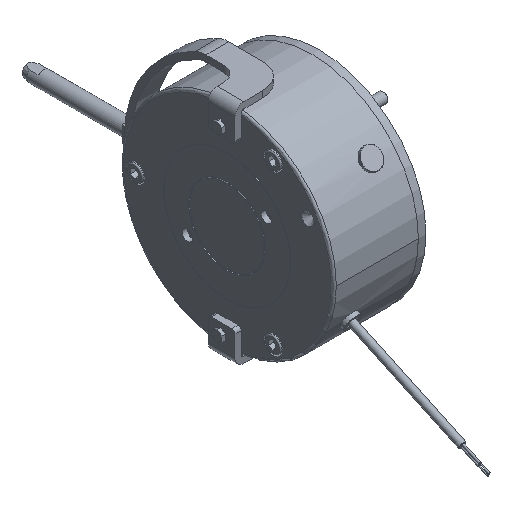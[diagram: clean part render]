
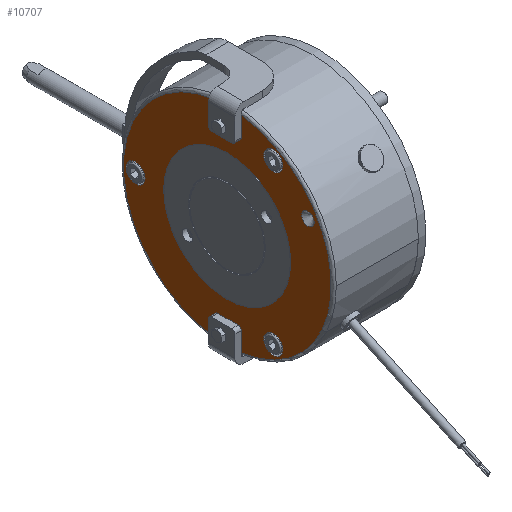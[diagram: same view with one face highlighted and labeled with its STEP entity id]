
A CAD part, isometric view. The second image highlights one B-rep face of the part: STEP entity #10707.
In plain terms, the highlighted planar face has unit normal (-1, 0, 0).
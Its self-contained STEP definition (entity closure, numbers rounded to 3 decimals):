
#767=FACE_BOUND('',#2466,.T.);
#768=FACE_BOUND('',#2467,.T.);
#769=FACE_BOUND('',#2468,.T.);
#770=FACE_BOUND('',#2469,.T.);
#771=FACE_BOUND('',#2470,.T.);
#1269=CIRCLE('',#11748,50.);
#1270=CIRCLE('',#11749,50.);
#1279=CIRCLE('',#11761,7.5);
#1280=CIRCLE('',#11762,7.5);
#1283=CIRCLE('',#11767,7.5);
#1284=CIRCLE('',#11768,7.5);
#1287=CIRCLE('',#11773,7.5);
#1288=CIRCLE('',#11774,7.5);
#1293=CIRCLE('',#11781,82.);
#1295=CIRCLE('',#11783,82.);
#1304=CIRCLE('',#11796,2.5);
#1305=CIRCLE('',#11797,2.5);
#1306=CIRCLE('',#11798,2.5);
#1307=CIRCLE('',#11799,2.5);
#1308=CIRCLE('',#11800,5.);
#1309=CIRCLE('',#11801,5.);
#1867=FACE_OUTER_BOUND('',#2465,.T.);
#2465=EDGE_LOOP('',(#8838,#8839,#8840,#8841,#8842,#8843,#8844,#8845,#8846,
#8847,#8848,#8849));
#2466=EDGE_LOOP('',(#8850,#8851));
#2467=EDGE_LOOP('',(#8852,#8853));
#2468=EDGE_LOOP('',(#8854,#8855));
#2469=EDGE_LOOP('',(#8856,#8857));
#2470=EDGE_LOOP('',(#8858,#8859));
#3116=LINE('',#19147,#3680);
#3117=LINE('',#19149,#3681);
#3118=LINE('',#19153,#3682);
#3119=LINE('',#19156,#3683);
#3120=LINE('',#19158,#3684);
#3121=LINE('',#19162,#3685);
#3680=VECTOR('',#14341,10.);
#3681=VECTOR('',#14342,10.);
#3682=VECTOR('',#14345,10.);
#3683=VECTOR('',#14348,10.);
#3684=VECTOR('',#14349,10.);
#3685=VECTOR('',#14352,10.);
#4653=VERTEX_POINT('',#19056);
#4654=VERTEX_POINT('',#19057);
#4663=VERTEX_POINT('',#19081);
#4664=VERTEX_POINT('',#19082);
#4667=VERTEX_POINT('',#19092);
#4668=VERTEX_POINT('',#19093);
#4671=VERTEX_POINT('',#19103);
#4672=VERTEX_POINT('',#19104);
#4676=VERTEX_POINT('',#19116);
#4677=VERTEX_POINT('',#19118);
#4678=VERTEX_POINT('',#19120);
#4679=VERTEX_POINT('',#19122);
#4687=VERTEX_POINT('',#19146);
#4688=VERTEX_POINT('',#19148);
#4689=VERTEX_POINT('',#19150);
#4690=VERTEX_POINT('',#19152);
#4691=VERTEX_POINT('',#19154);
#4692=VERTEX_POINT('',#19157);
#4693=VERTEX_POINT('',#19159);
#4694=VERTEX_POINT('',#19161);
#4695=VERTEX_POINT('',#19164);
#4696=VERTEX_POINT('',#19165);
#6086=EDGE_CURVE('',#4653,#4654,#1269,.T.);
#6087=EDGE_CURVE('',#4654,#4653,#1270,.T.);
#6098=EDGE_CURVE('',#4663,#4664,#1279,.T.);
#6099=EDGE_CURVE('',#4664,#4663,#1280,.T.);
#6103=EDGE_CURVE('',#4667,#4668,#1283,.T.);
#6104=EDGE_CURVE('',#4668,#4667,#1284,.T.);
#6108=EDGE_CURVE('',#4671,#4672,#1287,.T.);
#6109=EDGE_CURVE('',#4672,#4671,#1288,.T.);
#6115=EDGE_CURVE('',#4676,#4677,#1293,.T.);
#6117=EDGE_CURVE('',#4678,#4679,#1295,.T.);
#6129=EDGE_CURVE('',#4687,#4679,#3116,.T.);
#6130=EDGE_CURVE('',#4678,#4688,#3117,.T.);
#6131=EDGE_CURVE('',#4688,#4689,#1304,.T.);
#6132=EDGE_CURVE('',#4689,#4690,#3118,.T.);
#6133=EDGE_CURVE('',#4690,#4691,#1305,.T.);
#6134=EDGE_CURVE('',#4691,#4677,#3119,.T.);
#6135=EDGE_CURVE('',#4676,#4692,#3120,.T.);
#6136=EDGE_CURVE('',#4692,#4693,#1306,.T.);
#6137=EDGE_CURVE('',#4693,#4694,#3121,.T.);
#6138=EDGE_CURVE('',#4694,#4687,#1307,.T.);
#6139=EDGE_CURVE('',#4695,#4696,#1308,.T.);
#6140=EDGE_CURVE('',#4696,#4695,#1309,.T.);
#8838=ORIENTED_EDGE('',*,*,#6129,.T.);
#8839=ORIENTED_EDGE('',*,*,#6117,.F.);
#8840=ORIENTED_EDGE('',*,*,#6130,.T.);
#8841=ORIENTED_EDGE('',*,*,#6131,.T.);
#8842=ORIENTED_EDGE('',*,*,#6132,.T.);
#8843=ORIENTED_EDGE('',*,*,#6133,.T.);
#8844=ORIENTED_EDGE('',*,*,#6134,.T.);
#8845=ORIENTED_EDGE('',*,*,#6115,.F.);
#8846=ORIENTED_EDGE('',*,*,#6135,.T.);
#8847=ORIENTED_EDGE('',*,*,#6136,.T.);
#8848=ORIENTED_EDGE('',*,*,#6137,.T.);
#8849=ORIENTED_EDGE('',*,*,#6138,.T.);
#8850=ORIENTED_EDGE('',*,*,#6139,.T.);
#8851=ORIENTED_EDGE('',*,*,#6140,.T.);
#8852=ORIENTED_EDGE('',*,*,#6086,.T.);
#8853=ORIENTED_EDGE('',*,*,#6087,.T.);
#8854=ORIENTED_EDGE('',*,*,#6098,.T.);
#8855=ORIENTED_EDGE('',*,*,#6099,.T.);
#8856=ORIENTED_EDGE('',*,*,#6103,.T.);
#8857=ORIENTED_EDGE('',*,*,#6104,.T.);
#8858=ORIENTED_EDGE('',*,*,#6108,.T.);
#8859=ORIENTED_EDGE('',*,*,#6109,.T.);
#9646=PLANE('',#11795);
#10707=ADVANCED_FACE('',(#1867,#767,#768,#769,#770,#771),#9646,.T.);
#11748=AXIS2_PLACEMENT_3D('',#19058,#14237,#14238);
#11749=AXIS2_PLACEMENT_3D('',#19059,#14239,#14240);
#11761=AXIS2_PLACEMENT_3D('',#19083,#14265,#14266);
#11762=AXIS2_PLACEMENT_3D('',#19084,#14267,#14268);
#11767=AXIS2_PLACEMENT_3D('',#19094,#14278,#14279);
#11768=AXIS2_PLACEMENT_3D('',#19095,#14280,#14281);
#11773=AXIS2_PLACEMENT_3D('',#19105,#14291,#14292);
#11774=AXIS2_PLACEMENT_3D('',#19106,#14293,#14294);
#11781=AXIS2_PLACEMENT_3D('',#19119,#14308,#14309);
#11783=AXIS2_PLACEMENT_3D('',#19123,#14312,#14313);
#11795=AXIS2_PLACEMENT_3D('',#19145,#14339,#14340);
#11796=AXIS2_PLACEMENT_3D('',#19151,#14343,#14344);
#11797=AXIS2_PLACEMENT_3D('',#19155,#14346,#14347);
#11798=AXIS2_PLACEMENT_3D('',#19160,#14350,#14351);
#11799=AXIS2_PLACEMENT_3D('',#19163,#14353,#14354);
#11800=AXIS2_PLACEMENT_3D('',#19166,#14355,#14356);
#11801=AXIS2_PLACEMENT_3D('',#19167,#14357,#14358);
#14237=DIRECTION('center_axis',(1.,0.,0.));
#14238=DIRECTION('ref_axis',(0.,1.,0.));
#14239=DIRECTION('center_axis',(1.,0.,0.));
#14240=DIRECTION('ref_axis',(0.,1.,0.));
#14265=DIRECTION('center_axis',(1.,0.,0.));
#14266=DIRECTION('ref_axis',(0.,0.,1.));
#14267=DIRECTION('center_axis',(1.,0.,0.));
#14268=DIRECTION('ref_axis',(0.,0.,1.));
#14278=DIRECTION('center_axis',(1.,0.,0.));
#14279=DIRECTION('ref_axis',(0.,0.,1.));
#14280=DIRECTION('center_axis',(1.,0.,0.));
#14281=DIRECTION('ref_axis',(0.,0.,1.));
#14291=DIRECTION('center_axis',(1.,0.,0.));
#14292=DIRECTION('ref_axis',(0.,0.,1.));
#14293=DIRECTION('center_axis',(1.,0.,0.));
#14294=DIRECTION('ref_axis',(0.,0.,1.));
#14308=DIRECTION('center_axis',(1.,0.,0.));
#14309=DIRECTION('ref_axis',(0.,-1.,0.));
#14312=DIRECTION('center_axis',(1.,0.,0.));
#14313=DIRECTION('ref_axis',(0.,-1.,0.));
#14339=DIRECTION('center_axis',(-1.,0.,0.));
#14340=DIRECTION('ref_axis',(0.,0.,1.));
#14341=DIRECTION('',(0.,0.,1.));
#14342=DIRECTION('',(0.,0.,1.));
#14343=DIRECTION('center_axis',(1.,0.,0.));
#14344=DIRECTION('ref_axis',(0.,0.707,0.707));
#14345=DIRECTION('',(0.,-1.,0.));
#14346=DIRECTION('center_axis',(1.,0.,0.));
#14347=DIRECTION('ref_axis',(0.,-0.707,0.707));
#14348=DIRECTION('',(0.,0.,-1.));
#14349=DIRECTION('',(0.,0.,-1.));
#14350=DIRECTION('center_axis',(1.,0.,0.));
#14351=DIRECTION('ref_axis',(0.,-0.707,-0.707));
#14352=DIRECTION('',(0.,1.,0.));
#14353=DIRECTION('center_axis',(1.,0.,0.));
#14354=DIRECTION('ref_axis',(0.,0.707,-0.707));
#14355=DIRECTION('center_axis',(1.,0.,0.));
#14356=DIRECTION('ref_axis',(0.,0.,1.));
#14357=DIRECTION('center_axis',(1.,0.,0.));
#14358=DIRECTION('ref_axis',(0.,0.,1.));
#19056=CARTESIAN_POINT('',(-66.8,50.,0.));
#19057=CARTESIAN_POINT('',(-66.8,-50.,0.));
#19058=CARTESIAN_POINT('Origin',(-66.8,0.,0.));
#19059=CARTESIAN_POINT('Origin',(-66.8,0.,0.));
#19081=CARTESIAN_POINT('',(-66.8,72.5,7.5));
#19082=CARTESIAN_POINT('',(-66.8,72.5,-7.5));
#19083=CARTESIAN_POINT('Origin',(-66.8,72.5,0.));
#19084=CARTESIAN_POINT('Origin',(-66.8,72.5,0.));
#19092=CARTESIAN_POINT('',(-66.8,-36.25,-55.287));
#19093=CARTESIAN_POINT('',(-66.8,-36.25,-70.287));
#19094=CARTESIAN_POINT('Origin',(-66.8,-36.25,-62.787));
#19095=CARTESIAN_POINT('Origin',(-66.8,-36.25,-62.787));
#19103=CARTESIAN_POINT('',(-66.8,-36.25,70.287));
#19104=CARTESIAN_POINT('',(-66.8,-36.25,55.287));
#19105=CARTESIAN_POINT('Origin',(-66.8,-36.25,62.787));
#19106=CARTESIAN_POINT('Origin',(-66.8,-36.25,62.787));
#19116=CARTESIAN_POINT('',(-66.8,-11.,81.259));
#19118=CARTESIAN_POINT('',(-66.8,-11.,-81.259));
#19119=CARTESIAN_POINT('Origin',(-66.8,0.,0.));
#19120=CARTESIAN_POINT('',(-66.8,10.,-81.388));
#19122=CARTESIAN_POINT('',(-66.8,10.,81.388));
#19123=CARTESIAN_POINT('Origin',(-66.8,0.,0.));
#19145=CARTESIAN_POINT('Origin',(-66.8,67.,0.));
#19146=CARTESIAN_POINT('',(-66.8,10.,66.));
#19147=CARTESIAN_POINT('',(-66.8,10.,42.25));
#19148=CARTESIAN_POINT('',(-66.8,10.,-66.));
#19149=CARTESIAN_POINT('',(-66.8,10.,-44.75));
#19150=CARTESIAN_POINT('',(-66.8,7.5,-63.5));
#19151=CARTESIAN_POINT('Origin',(-66.8,7.5,-66.));
#19152=CARTESIAN_POINT('',(-66.8,-8.5,-63.5));
#19153=CARTESIAN_POINT('',(-66.8,38.5,-63.5));
#19154=CARTESIAN_POINT('',(-66.8,-11.,-66.));
#19155=CARTESIAN_POINT('Origin',(-66.8,-8.5,-66.));
#19156=CARTESIAN_POINT('',(-66.8,-11.,-42.25));
#19157=CARTESIAN_POINT('',(-66.8,-11.,66.));
#19158=CARTESIAN_POINT('',(-66.8,-11.,44.75));
#19159=CARTESIAN_POINT('',(-66.8,-8.5,63.5));
#19160=CARTESIAN_POINT('Origin',(-66.8,-8.5,66.));
#19161=CARTESIAN_POINT('',(-66.8,7.5,63.5));
#19162=CARTESIAN_POINT('',(-66.8,28.,63.5));
#19163=CARTESIAN_POINT('Origin',(-66.8,7.5,66.));
#19164=CARTESIAN_POINT('',(-66.8,-63.653,41.75));
#19165=CARTESIAN_POINT('',(-66.8,-63.653,31.75));
#19166=CARTESIAN_POINT('Origin',(-66.8,-63.653,36.75));
#19167=CARTESIAN_POINT('Origin',(-66.8,-63.653,36.75));
